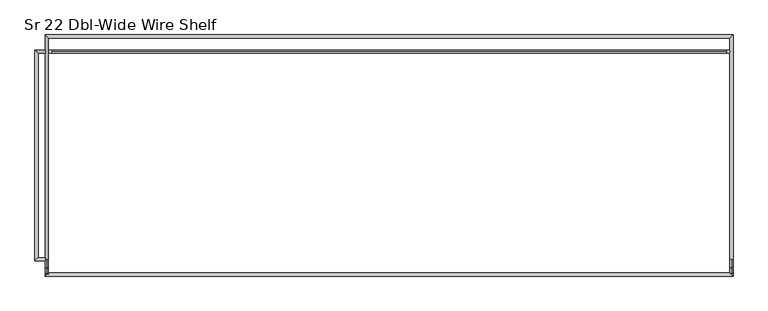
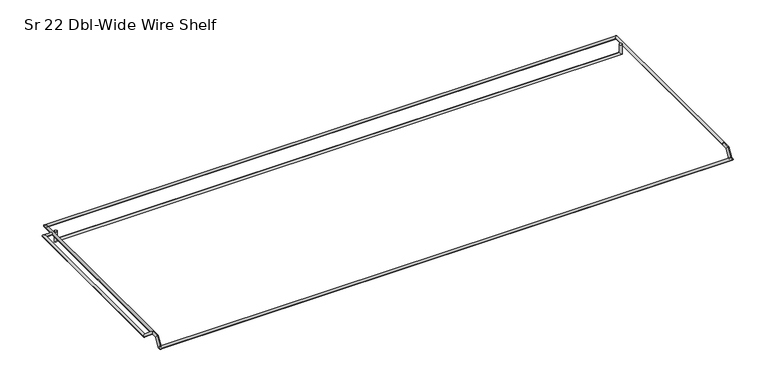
"""IFC4 building model written with IfcOpenShell, lengths in millimetres: furniture geometry, HermanMiller_Carts_CT521_CartShelf : Sr 22 Dbl-Wide Wire Shelf."""

from ifc_helpers import new_model, si_unit, frame, origin, place, context, project, spatial, circle_curve, ellipse_curve, source, transform, mapped, element, save
from ifc_brep_helpers import plane_surface, cylinder_surface, advanced_brep


def sr_22_dbl_wide_wire_shelf_b94fb90b(model_context):
    return source(origin(), model_context, "Body", "AdvancedBrep", [
        advanced_brep(
        [(733.4732983, 136.525, 2473.3377), (738.2357983, 136.525, 2473.3377), (733.4732983, 136.525, 2458.0596), (738.2357983, 136.525, 2453.2971), (-295.1886017, 136.525, 2458.0596), (-299.9511017, 136.525, 2453.2971), (-295.1886017, 136.525, 2473.3377), (-299.9511017, 136.525, 2473.3377)],
        [
            (0, 1, circle_curve(frame((735.8545483, 136.525, 2473.3377), z_axis=(0.0, 0.0, 1.0), x_axis=(1.0, 0.0, 0.0)), 2.38125)),
            (1, 0, circle_curve(frame((735.8545483, 136.525, 2473.3377), z_axis=(0.0, 0.0, 1.0), x_axis=(1.0, 0.0, 0.0)), 2.38125)),
            (0, 2),
            (2, 3, ellipse_curve(frame((735.8545483, 136.525, 2455.67835), z_axis=(0.7071067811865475, 0.0, 0.7071067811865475), x_axis=(-0.7071067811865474, 0.0, 0.7071067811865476)), 3.367596, 2.38125)),
            (3, 1),
            (3, 2, ellipse_curve(frame((735.8545483, 136.525, 2455.67835), z_axis=(0.7071067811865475, 0.0, 0.7071067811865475), x_axis=(-0.7071067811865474, 0.0, 0.7071067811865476)), 3.367596, 2.38125)),
            (2, 4),
            (4, 5, ellipse_curve(frame((-297.5698517, 136.525, 2455.67835), z_axis=(0.7071067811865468, 0.0, -0.7071067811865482), x_axis=(0.7071067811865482, 0.0, 0.7071067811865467)), 3.367596, 2.38125)),
            (5, 3),
            (5, 4, ellipse_curve(frame((-297.5698517, 136.525, 2455.67835), z_axis=(0.7071067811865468, 0.0, -0.7071067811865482), x_axis=(0.7071067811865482, 0.0, 0.7071067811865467)), 3.367596, 2.38125)),
            (6, 7, circle_curve(frame((-297.5698517, 136.525, 2473.3377), z_axis=(0.0, 0.0, 1.0), x_axis=(-1.0, 0.0, 0.0)), 2.38125)),
            (7, 6, circle_curve(frame((-297.5698517, 136.525, 2473.3377), z_axis=(0.0, 0.0, 1.0), x_axis=(-1.0, 0.0, 0.0)), 2.38125)),
            (4, 6),
            (7, 5),
        ],
        [
            plane_surface(frame((735.8545483, 136.525, 2473.3377), z_axis=(0.0, 0.0, 1.0), x_axis=(0.0, -1.0, 0.0))),
            cylinder_surface(frame((735.8545483, 136.525, 2473.3377), z_axis=(0.0, 0.0, 1.0), x_axis=(1.0, 0.0, 0.0)), 2.38125),
            cylinder_surface(frame((735.8545483, 136.525, 2455.67835), z_axis=(1.0, 0.0, 0.0), x_axis=(0.0, 0.0, -1.0)), 2.38125),
            plane_surface(frame((-297.5698517, 136.525, 2473.3377), z_axis=(0.0, 0.0, 1.0), x_axis=(0.0, -1.0, 0.0))),
            cylinder_surface(frame((-297.5698517, 136.525, 2455.67835), z_axis=(0.0, 0.0, -1.0), x_axis=(-1.0, 0.0, 0.0)), 2.38125),
        ],
        [
            (0, [[1, 2]]),
            (1, [[-1, 3, 4, 5]]),
            (1, [[-2, -5, 6, -3]]),
            (2, [[-4, 7, 8, 9]]),
            (2, [[-6, -9, 10, -7]]),
            (3, [[11, 12]]),
            (4, [[-8, 13, -12, 14]]),
            (4, [[-10, -14, -11, -13]]),
        ],
    ),
        advanced_brep(
        [(-305.0526917, -178.26736, 2470.9501), (-305.0526917, -183.04256, 2470.9501), (-305.0526917, 133.81736, 2470.9501), (-305.0526917, 138.59256, 2470.9501), (-316.1524917, -178.26736, 2470.9501), (-320.9276917, -183.04256, 2470.9501), (-316.1524917, 133.81736, 2470.9501), (-320.9276917, 138.59256, 2470.9501)],
        [
            (0, 1, circle_curve(frame((-305.0526917, -180.65496, 2470.9501), z_axis=(1.0, 0.0, 0.0), x_axis=(0.0, -1.0, 0.0)), 2.3876)),
            (1, 0, circle_curve(frame((-305.0526917, -180.65496, 2470.9501), z_axis=(1.0, 0.0, 0.0), x_axis=(0.0, -1.0, 0.0)), 2.3876)),
            (2, 3, circle_curve(frame((-305.0526917, 136.20496, 2470.9501), z_axis=(1.0, 0.0, 0.0), x_axis=(0.0, 1.0, 0.0)), 2.3876)),
            (3, 2, circle_curve(frame((-305.0526917, 136.20496, 2470.9501), z_axis=(1.0, 0.0, 0.0), x_axis=(0.0, 1.0, 0.0)), 2.3876)),
            (0, 4),
            (4, 5, ellipse_curve(frame((-318.5400917, -180.65496, 2470.9501), z_axis=(0.7071067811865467, -0.7071067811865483, 0.0), x_axis=(0.7071067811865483, 0.7071067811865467, 0.0)), 3.3765763, 2.3876)),
            (5, 1),
            (5, 4, ellipse_curve(frame((-318.5400917, -180.65496, 2470.9501), z_axis=(0.7071067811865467, -0.7071067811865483, 0.0), x_axis=(0.7071067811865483, 0.7071067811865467, 0.0)), 3.3765763, 2.3876)),
            (4, 6),
            (6, 7, ellipse_curve(frame((-318.5400917, 136.20496, 2470.9501), z_axis=(-0.7071067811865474, -0.7071067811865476, 0.0), x_axis=(0.7071067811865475, -0.7071067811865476, 0.0)), 3.3765763, 2.3876)),
            (7, 5),
            (7, 6, ellipse_curve(frame((-318.5400917, 136.20496, 2470.9501), z_axis=(-0.7071067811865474, -0.7071067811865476, 0.0), x_axis=(0.7071067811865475, -0.7071067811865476, 0.0)), 3.3765763, 2.3876)),
            (6, 2),
            (3, 7),
        ],
        [
            plane_surface(frame((-305.0526917, -180.65496, 2470.9501), z_axis=(1.0, 0.0, 0.0), x_axis=(0.0, 0.0, 1.0))),
            plane_surface(frame((-305.0526917, 136.20496, 2470.9501), z_axis=(1.0, 0.0, 0.0), x_axis=(0.0, 0.0, 1.0))),
            cylinder_surface(frame((-305.0526917, -180.65496, 2470.9501), z_axis=(1.0, 0.0, 0.0), x_axis=(0.0, -1.0, 0.0)), 2.3876),
            cylinder_surface(frame((-318.5400917, -180.65496, 2470.9501), z_axis=(0.0, -1.0, 0.0), x_axis=(-1.0, 0.0, 0.0)), 2.3876),
            cylinder_surface(frame((-318.5400917, 136.20496, 2470.9501), z_axis=(-1.0, 0.0, 0.0), x_axis=(0.0, 1.0, 0.0)), 2.3876),
        ],
        [
            (0, [[1, 2]]),
            (1, [[3, 4]]),
            (2, [[-1, 5, 6, 7]]),
            (2, [[-2, -7, 8, -5]]),
            (3, [[-6, 9, 10, 11]]),
            (3, [[-8, -11, 12, -9]]),
            (4, [[-10, 13, -4, 14]]),
            (4, [[-12, -14, -3, -13]]),
        ],
    ),
        advanced_brep(
        [(738.5621883, -201.5998, 2455.6847), (743.3373883, -201.5998, 2455.6847), (743.3373883, -206.375, 2455.6847), (-300.2774917, -201.5998, 2455.6847), (-305.0526917, -206.375, 2455.6847), (-305.0526917, -201.5998, 2455.6847)],
        [
            (0, 1, circle_curve(frame((740.9497883, -201.5998, 2455.6847), z_axis=(0.0, 1.0, 0.0), x_axis=(1.0, 0.0, 0.0)), 2.3876)),
            (1, 0, circle_curve(frame((740.9497883, -201.5998, 2455.6847), z_axis=(0.0, 1.0, 0.0), x_axis=(1.0, 0.0, 0.0)), 2.3876)),
            (0, 2, ellipse_curve(frame((740.9497883, -203.9874, 2455.6847), z_axis=(0.7071067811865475, 0.7071067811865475, 0.0), x_axis=(-0.7071067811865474, 0.7071067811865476, 0.0)), 3.3765763, 2.3876)),
            (2, 1),
            (2, 0, ellipse_curve(frame((740.9497883, -203.9874, 2455.6847), z_axis=(0.7071067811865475, 0.7071067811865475, 0.0), x_axis=(-0.7071067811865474, 0.7071067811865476, 0.0)), 3.3765763, 2.3876)),
            (0, 3),
            (3, 4, ellipse_curve(frame((-302.6650917, -203.9874, 2455.6847), z_axis=(0.7071067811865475, -0.7071067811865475, 0.0), x_axis=(0.7071067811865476, 0.7071067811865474, 0.0)), 3.3765763, 2.3876)),
            (4, 2),
            (4, 3, ellipse_curve(frame((-302.6650917, -203.9874, 2455.6847), z_axis=(0.7071067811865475, -0.7071067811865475, 0.0), x_axis=(0.7071067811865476, 0.7071067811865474, 0.0)), 3.3765763, 2.3876)),
            (3, 5, circle_curve(frame((-302.6650917, -201.5998, 2455.6847), z_axis=(0.0, 1.0, 0.0), x_axis=(-1.0, 0.0, 0.0)), 2.3876)),
            (5, 3, circle_curve(frame((-302.6650917, -201.5998, 2455.6847), z_axis=(0.0, 1.0, 0.0), x_axis=(-1.0, 0.0, 0.0)), 2.3876)),
            (5, 4),
        ],
        [
            plane_surface(frame((740.9497883, -201.5998, 2455.6847), z_axis=(0.0, 1.0, 0.0), x_axis=(0.0, 0.0, 1.0))),
            cylinder_surface(frame((740.9497883, -201.5998, 2455.6847), z_axis=(0.0, 1.0, 0.0), x_axis=(1.0, 0.0, 0.0)), 2.3876),
            cylinder_surface(frame((740.9497883, -203.9874, 2455.6847), z_axis=(1.0, 0.0, 0.0), x_axis=(0.0, -1.0, 0.0)), 2.3876),
            plane_surface(frame((-302.6650917, -201.5998, 2455.6847), z_axis=(0.0, 1.0, 0.0), x_axis=(0.0, 0.0, 1.0))),
            cylinder_surface(frame((-302.6650917, -203.9874, 2455.6847), z_axis=(0.0, -1.0, 0.0), x_axis=(-1.0, 0.0, 0.0)), 2.3876),
        ],
        [
            (0, [[1, 2]]),
            (1, [[-1, 3, 4]]),
            (1, [[-2, -4, 5]]),
            (2, [[-3, 6, 7, 8]]),
            (2, [[-5, -8, 9, -6]]),
            (3, [[10, 11]]),
            (4, [[-7, -11, 12]]),
            (4, [[-9, -12, -10]]),
        ],
    ),
        advanced_brep(
        [(743.3373883, -180.65496, 2470.9501), (738.5621883, -180.65496, 2470.9501), (743.3373883, 161.925, 2470.9501), (738.5621883, 157.1498, 2470.9501), (-305.0526917, 161.925, 2470.9501), (-300.2774917, 157.1498, 2470.9501), (-305.0526917, -180.65496, 2470.9501), (-300.2774917, -180.65496, 2470.9501)],
        [
            (0, 1, circle_curve(frame((740.9497883, -180.65496, 2470.9501), z_axis=(0.0, -1.0, 0.0), x_axis=(-1.0, 0.0, 0.0)), 2.3876)),
            (1, 0, circle_curve(frame((740.9497883, -180.65496, 2470.9501), z_axis=(0.0, -1.0, 0.0), x_axis=(-1.0, 0.0, 0.0)), 2.3876)),
            (0, 2),
            (2, 3, ellipse_curve(frame((740.9497883, 159.5374, 2470.9501), z_axis=(0.7071067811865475, -0.7071067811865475, 0.0), x_axis=(-0.7071067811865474, -0.7071067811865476, 0.0)), 3.3765763, 2.3876)),
            (3, 1),
            (3, 2, ellipse_curve(frame((740.9497883, 159.5374, 2470.9501), z_axis=(0.7071067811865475, -0.7071067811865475, 0.0), x_axis=(-0.7071067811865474, -0.7071067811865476, 0.0)), 3.3765763, 2.3876)),
            (2, 4),
            (4, 5, ellipse_curve(frame((-302.6650917, 159.5374, 2470.9501), z_axis=(0.7071067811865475, 0.7071067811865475, 0.0), x_axis=(0.7071067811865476, -0.7071067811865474, 0.0)), 3.3765763, 2.3876)),
            (5, 3),
            (5, 4, ellipse_curve(frame((-302.6650917, 159.5374, 2470.9501), z_axis=(0.7071067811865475, 0.7071067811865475, 0.0), x_axis=(0.7071067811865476, -0.7071067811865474, 0.0)), 3.3765763, 2.3876)),
            (6, 7, circle_curve(frame((-302.6650917, -180.65496, 2470.9501), z_axis=(0.0, -1.0, 0.0), x_axis=(1.0, 0.0, 0.0)), 2.3876)),
            (7, 6, circle_curve(frame((-302.6650917, -180.65496, 2470.9501), z_axis=(0.0, -1.0, 0.0), x_axis=(1.0, 0.0, 0.0)), 2.3876)),
            (4, 6),
            (7, 5),
        ],
        [
            plane_surface(frame((740.9497883, -180.65496, 2470.9501), z_axis=(0.0, -1.0, 0.0), x_axis=(0.0, 0.0, 1.0))),
            cylinder_surface(frame((740.9497883, -180.65496, 2470.9501), z_axis=(0.0, -1.0, 0.0), x_axis=(-1.0, 0.0, 0.0)), 2.3876),
            cylinder_surface(frame((740.9497883, 159.5374, 2470.9501), z_axis=(1.0, 0.0, 0.0), x_axis=(0.0, -1.0, 0.0)), 2.3876),
            plane_surface(frame((-302.6650917, -180.65496, 2470.9501), z_axis=(0.0, -1.0, 0.0), x_axis=(0.0, 0.0, 1.0))),
            cylinder_surface(frame((-302.6650917, 159.5374, 2470.9501), z_axis=(0.0, 1.0, 0.0), x_axis=(1.0, 0.0, 0.0)), 2.3876),
        ],
        [
            (0, [[1, 2]]),
            (1, [[-1, 3, 4, 5]]),
            (1, [[-2, -5, 6, -3]]),
            (2, [[-4, 7, 8, 9]]),
            (2, [[-6, -9, 10, -7]]),
            (3, [[11, 12]]),
            (4, [[-8, 13, -12, 14]]),
            (4, [[-10, -14, -11, -13]]),
        ],
    ),
        advanced_brep(
        [(740.9497883, -180.65496, 2473.3377), (740.9497883, -180.65496, 2468.5625), (740.9497883, -191.442659, 2468.5625), (740.9497883, -194.205541, 2473.3377), (740.9497883, -200.218359, 2453.2971), (740.9497883, -202.981241, 2458.0723), (740.9497883, -203.9874, 2458.0723), (740.9497883, -203.9874, 2453.2971)],
        [
            (0, 1, circle_curve(frame((740.9497883, -180.65496, 2470.9501), z_axis=(0.0, 1.0, 0.0), x_axis=(0.0, 0.0, -1.0)), 2.3876)),
            (1, 0, circle_curve(frame((740.9497883, -180.65496, 2470.9501), z_axis=(0.0, 1.0, 0.0), x_axis=(0.0, 0.0, -1.0)), 2.3876)),
            (1, 2),
            (2, 3, ellipse_curve(frame((740.9497883, -192.8241, 2470.9501), z_axis=(0.0, 0.8655604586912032, 0.500804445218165), x_axis=(0.0, 0.5008044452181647, -0.8655604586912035)), 2.7584439, 2.3876)),
            (3, 0),
            (3, 2, ellipse_curve(frame((740.9497883, -192.8241, 2470.9501), z_axis=(0.0, 0.8655604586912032, 0.500804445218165), x_axis=(0.0, 0.5008044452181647, -0.8655604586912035)), 2.7584439, 2.3876)),
            (2, 4),
            (4, 5, ellipse_curve(frame((740.9497883, -201.5998, 2455.6847), z_axis=(0.0, 0.8655604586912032, 0.500804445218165), x_axis=(0.0, -0.5008044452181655, 0.8655604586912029)), 2.7584439, 2.3876)),
            (5, 3),
            (5, 4, ellipse_curve(frame((740.9497883, -201.5998, 2455.6847), z_axis=(0.0, 0.8655604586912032, 0.500804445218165), x_axis=(0.0, -0.5008044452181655, 0.8655604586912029)), 2.7584439, 2.3876)),
            (6, 7, circle_curve(frame((740.9497883, -203.9874, 2455.6847), z_axis=(0.0, -1.0, 0.0), x_axis=(0.0, 0.0, -1.0)), 2.3876)),
            (7, 6, circle_curve(frame((740.9497883, -203.9874, 2455.6847), z_axis=(0.0, -1.0, 0.0), x_axis=(0.0, 0.0, -1.0)), 2.3876)),
            (4, 7),
            (6, 5),
        ],
        [
            plane_surface(frame((740.9497883, -180.65496, 2470.9501), z_axis=(0.0, 1.0, 0.0), x_axis=(1.0, 0.0, 0.0))),
            cylinder_surface(frame((740.9497883, -180.65496, 2470.9501), z_axis=(0.0, 1.0, 0.0), x_axis=(0.0, 0.0, -1.0)), 2.3876),
            cylinder_surface(frame((740.9497883, -192.8241, 2470.9501), z_axis=(0.0, 0.49838981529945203, 0.8669530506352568), x_axis=(0.0, 0.8669530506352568, -0.49838981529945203)), 2.3876),
            plane_surface(frame((740.9497883, -203.9874, 2455.6847), z_axis=(0.0, -1.0, 0.0), x_axis=(1.0, 0.0, 0.0))),
            cylinder_surface(frame((740.9497883, -201.5998, 2455.6847), z_axis=(0.0, 1.0, 0.0), x_axis=(0.0, 0.0, -1.0)), 2.3876),
        ],
        [
            (0, [[1, 2]]),
            (1, [[-2, 3, 4, 5]]),
            (1, [[-1, -5, 6, -3]]),
            (2, [[-4, 7, 8, 9]]),
            (2, [[-6, -9, 10, -7]]),
            (3, [[11, 12]]),
            (4, [[-8, 13, -11, 14]]),
            (4, [[-10, -14, -12, -13]]),
        ],
    ),
        advanced_brep(
        [(-302.6650917, -180.65496, 2468.5625), (-302.6650917, -180.65496, 2473.3377), (-302.6650917, -191.442659, 2468.5625), (-302.6650917, -194.205541, 2473.3377), (-302.6650917, -200.218359, 2453.2971), (-302.6650917, -202.981241, 2458.0723), (-302.6650917, -203.9874, 2453.2971), (-302.6650917, -203.9874, 2458.0723)],
        [
            (0, 1, circle_curve(frame((-302.6650917, -180.65496, 2470.9501), z_axis=(0.0, 1.0, 0.0), x_axis=(0.0, 0.0, 1.0)), 2.3876)),
            (1, 0, circle_curve(frame((-302.6650917, -180.65496, 2470.9501), z_axis=(0.0, 1.0, 0.0), x_axis=(0.0, 0.0, 1.0)), 2.3876)),
            (0, 2),
            (2, 3, ellipse_curve(frame((-302.6650917, -192.8241, 2470.9501), z_axis=(0.0, 0.865560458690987, 0.5008044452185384), x_axis=(0.0, 0.5008044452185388, -0.8655604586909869)), 2.7584439, 2.3876)),
            (3, 1),
            (3, 2, ellipse_curve(frame((-302.6650917, -192.8241, 2470.9501), z_axis=(0.0, 0.865560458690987, 0.5008044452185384), x_axis=(0.0, 0.5008044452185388, -0.8655604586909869)), 2.7584439, 2.3876)),
            (2, 4),
            (4, 5, ellipse_curve(frame((-302.6650917, -201.5998, 2455.6847), z_axis=(0.0, 0.865560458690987, 0.5008044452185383), x_axis=(0.0, -0.500804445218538, 0.8655604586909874)), 2.7584439, 2.3876)),
            (5, 3),
            (5, 4, ellipse_curve(frame((-302.6650917, -201.5998, 2455.6847), z_axis=(0.0, 0.865560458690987, 0.5008044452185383), x_axis=(0.0, -0.500804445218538, 0.8655604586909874)), 2.7584439, 2.3876)),
            (6, 7, circle_curve(frame((-302.6650917, -203.9874, 2455.6847), z_axis=(0.0, -1.0, 0.0), x_axis=(0.0, 0.0, 1.0)), 2.3876)),
            (7, 6, circle_curve(frame((-302.6650917, -203.9874, 2455.6847), z_axis=(0.0, -1.0, 0.0), x_axis=(0.0, 0.0, 1.0)), 2.3876)),
            (4, 6),
            (7, 5),
        ],
        [
            plane_surface(frame((-302.6650917, -180.65496, 2470.9501), z_axis=(0.0, 1.0, 0.0), x_axis=(-1.0, 0.0, 0.0))),
            cylinder_surface(frame((-302.6650917, -180.65496, 2470.9501), z_axis=(0.0, 1.0, 0.0), x_axis=(0.0, 0.0, 1.0)), 2.3876),
            cylinder_surface(frame((-302.6650917, -192.8241, 2470.9501), z_axis=(0.0, 0.49838981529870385, 0.8669530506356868), x_axis=(0.0, -0.8669530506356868, 0.49838981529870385)), 2.3876),
            plane_surface(frame((-302.6650917, -203.9874, 2455.6847), z_axis=(0.0, -1.0, 0.0), x_axis=(-1.0, 0.0, 0.0))),
            cylinder_surface(frame((-302.6650917, -201.5998, 2455.6847), z_axis=(0.0, 1.0, 0.0), x_axis=(0.0, 0.0, 1.0)), 2.3876),
        ],
        [
            (0, [[1, 2]]),
            (1, [[-1, 3, 4, 5]]),
            (1, [[-2, -5, 6, -3]]),
            (2, [[-4, 7, 8, 9]]),
            (2, [[-6, -9, 10, -7]]),
            (3, [[11, 12]]),
            (4, [[-8, 13, -12, 14]]),
            (4, [[-10, -14, -11, -13]]),
        ],
    ),
    ])


if __name__ == "__main__":
    model = new_model("IFC4")
    model_context = context("Model", 3, world=origin())
    ifc_project = project(units=[si_unit("LENGTHUNIT", "METRE", prefix="MILLI")], contexts=[model_context])
    site = spatial("IfcSite", under=ifc_project)
    building = spatial("IfcBuilding", under=site)
    placement = place(None, origin())
    sr_22_dbl_wide_wire_shelf_shape = sr_22_dbl_wide_wire_shelf_b94fb90b(model_context)
    element("IfcFurniture", 1, ObjectType="HermanMiller_Carts_CT521_CartShelf : Sr 22 Dbl-Wide Wire Shelf", at=placement, inside=building, context=model_context, shape_type="MappedRepresentation", body=[
        mapped(sr_22_dbl_wide_wire_shelf_shape, transform((0.0, 0.0, 0.0), x_axis=(1.0, 0.0, 0.0), y_axis=(0.0, 1.0, 0.0), z_axis=(0.0, 0.0, 1.0))),
    ])
    save(model, "model.ifc")
